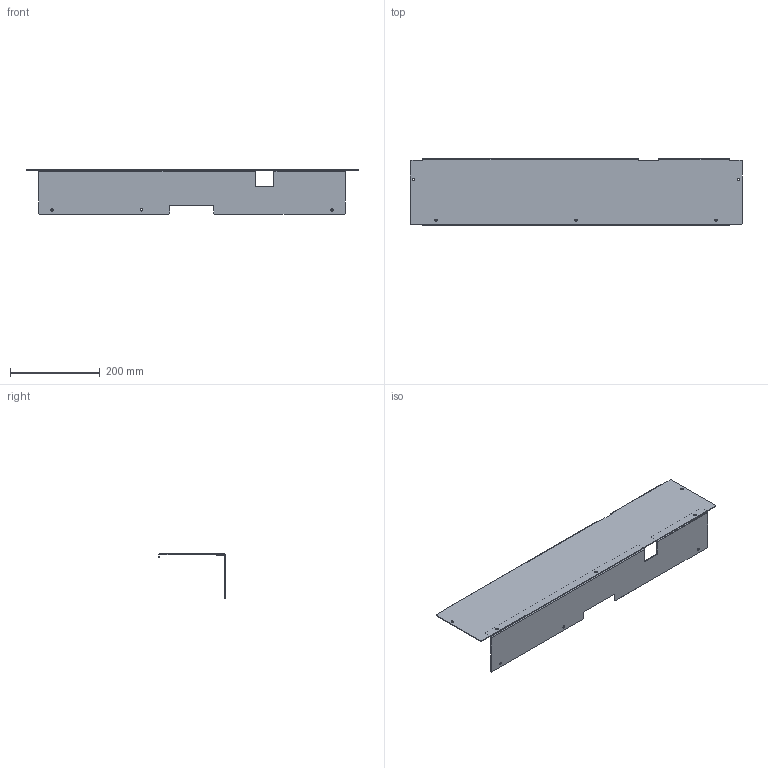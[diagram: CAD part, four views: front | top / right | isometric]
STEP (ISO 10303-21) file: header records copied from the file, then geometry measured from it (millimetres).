
FILE_DESCRIPTION(('CAx-IF Rec.Pracs.---Model Styling and Organization---1.2---2011-12-15','CAx-IF Rec.Pracs.---Geometric and Assembly Validation Properties---4.1---2014-06-16','CAx-IF Rec.Pracs.---PMI Polyline Presentation---2.0---2013-05-24'),'2;1');
FILE_NAME('R5M2CCS822.stp','2021-05-05T11:52:48+03:00',(''),(''),'STEP Interface 4.4 by CT CoreTechnologie','3D_Evolution4.4 by CT CoreTechnologie','');
FILE_SCHEMA(('AUTOMOTIVE_DESIGN { 1 0 10303 214 1 1 1 1 }'));
Length unit declared in the file: millimetre
Products named in the file (3): R5M2CCS822; RB.0856.00.00.1_-00; RB.0859.00.00.0_-01
Assembly tree (2 placements, depth 2):
  R5M2CCS822
    RB.0856.00.00.1_-00
    RB.0859.00.00.0_-01
Bounding box: 741 x 148.5 x 98.5 mm (x, y, z)
Surface area: 377210.9 mm2 (no closed solid volume)
Topology: 0 solids, 2 shells, 82 faces, 234 edges, 156 vertices
Faces by surface type: plane 52, cylinder 30
Entity records: 2840 total; most frequent: CARTESIAN_POINT 475, ORIENTED_EDGE 468, DIRECTION 464, EDGE_CURVE 234, VECTOR 174, LINE 174, VERTEX_POINT 156, AXIS2_PLACEMENT_3D 145
